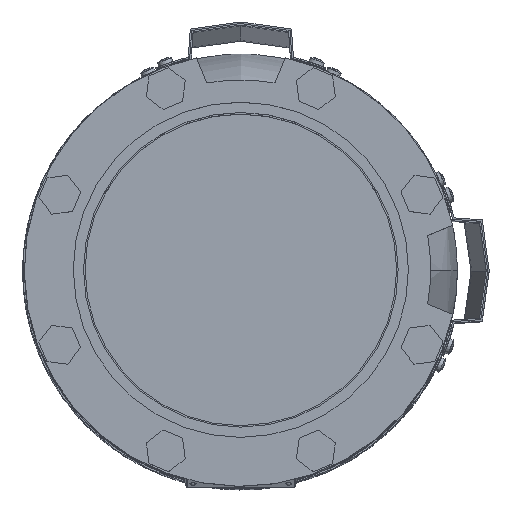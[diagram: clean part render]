
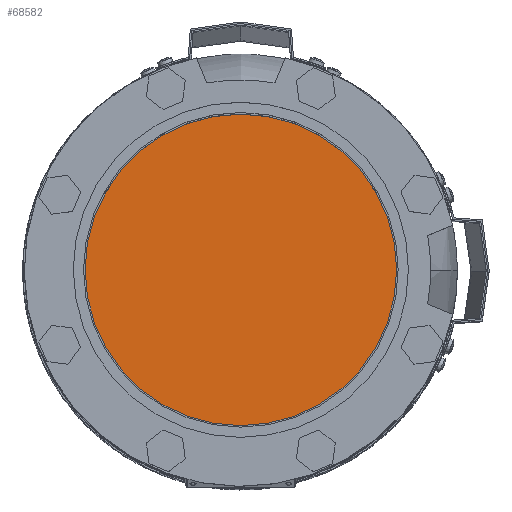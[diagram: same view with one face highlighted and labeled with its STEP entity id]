
A CAD part, top view. The second image highlights one B-rep face of the part: STEP entity #68582.
In plain terms, the highlighted planar face has unit normal (0, 0, 1) as drawn and (0, 1, 0) by its records, which use the part's own axes.
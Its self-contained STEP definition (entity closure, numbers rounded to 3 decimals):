
#649=CIRCLE('',#72276,102.5);
#650=CIRCLE('',#72277,102.5);
#16718=ORIENTED_EDGE('',*,*,#37510,.F.);
#16719=ORIENTED_EDGE('',*,*,#37511,.T.);
#37510=EDGE_CURVE('',#47906,#47907,#649,.T.);
#37511=EDGE_CURVE('',#47906,#47907,#650,.T.);
#47906=VERTEX_POINT('',#98975);
#47907=VERTEX_POINT('',#98976);
#55610=EDGE_LOOP('',(#16718,#16719));
#60561=FACE_BOUND('',#55610,.T.);
#65511=PLANE('',#72275);
#68582=ADVANCED_FACE('',(#60561),#65511,.T.);
#72275=AXIS2_PLACEMENT_3D('',#98973,#79009,#79010);
#72276=AXIS2_PLACEMENT_3D('',#98974,#79011,#79012);
#72277=AXIS2_PLACEMENT_3D('',#98977,#79013,#79014);
#79009=DIRECTION('',(0.,1.,0.));
#79010=DIRECTION('',(-1.,0.,0.));
#79011=DIRECTION('',(0.,-1.,0.));
#79012=DIRECTION('',(-1.,0.,0.));
#79013=DIRECTION('',(0.,1.,0.));
#79014=DIRECTION('',(-1.,0.,0.));
#98973=CARTESIAN_POINT('',(-109.56,216.5,0.));
#98974=CARTESIAN_POINT('',(0.,216.5,0.));
#98975=CARTESIAN_POINT('',(-102.5,216.5,0.));
#98976=CARTESIAN_POINT('',(102.5,216.5,0.));
#98977=CARTESIAN_POINT('',(0.,216.5,0.));
